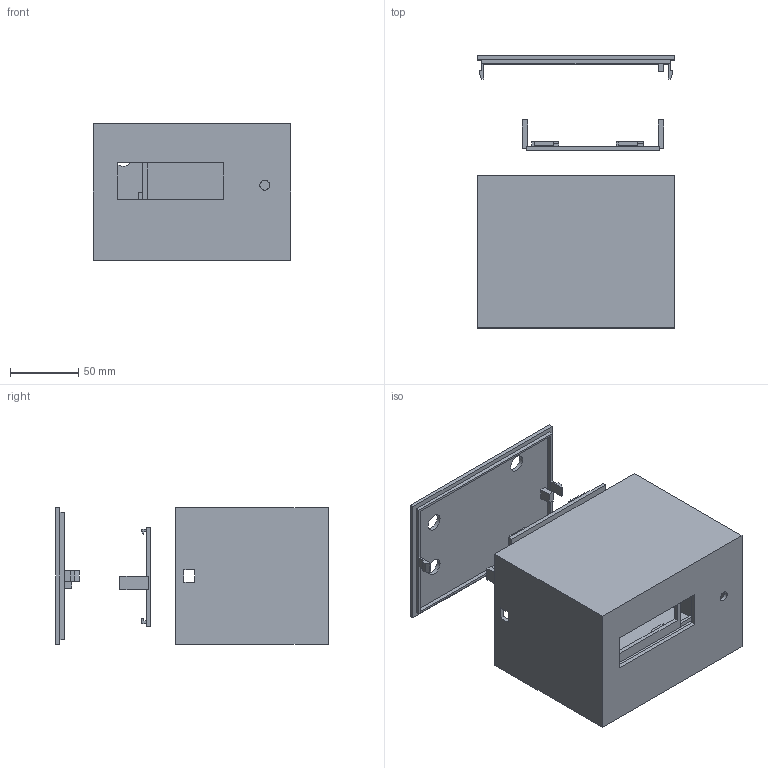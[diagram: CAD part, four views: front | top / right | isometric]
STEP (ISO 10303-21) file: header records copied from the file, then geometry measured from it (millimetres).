
FILE_DESCRIPTION(('Open CASCADE Model'),'2;1');
FILE_NAME('Open CASCADE Shape Model','2026-11-04T18:29:49',('Author'),( 'Open CASCADE'),'Open CASCADE STEP processor 7.8','Open CASCADE 7.8' ,'Unknown');
FILE_SCHEMA(('AUTOMOTIVE_DESIGN { 1 0 10303 214 1 1 1 1 }'));
Length unit declared in the file: millimetre
Products named in the file (4): Boitier_3_pieces_vue_eclatee; 01_Coque_supports_et_clips_integres; 02_Berceau_B_et_clips_integres; 03_Panneau_arriere_et_clips_integres
Assembly tree (3 placements, depth 2):
  Boitier_3_pieces_vue_eclatee
    01_Coque_supports_et_clips_integres
    02_Berceau_B_et_clips_integres
    03_Panneau_arriere_et_clips_integres
Bounding box: 145 x 200 x 100 mm (x, y, z)
Volume: 267609.7 mm3; surface area: 194926.1 mm2
Topology: 3 solids, 3 shells, 269 faces, 729 edges, 484 vertices
Faces by surface type: plane 264, cylinder 5
Full cylindrical faces by diameter (mm): 7.2 x1, 12.4 x1, 12.5 x2, 16 x1
Entity records: 17917 total; most frequent: CARTESIAN_POINT 2944, DIRECTION 2743, LINE 2167, VECTOR 2167, ORIENTED_EDGE 1458, PCURVE 1458, DEFINITIONAL_REPRESENTATION 1458, EDGE_CURVE 729
